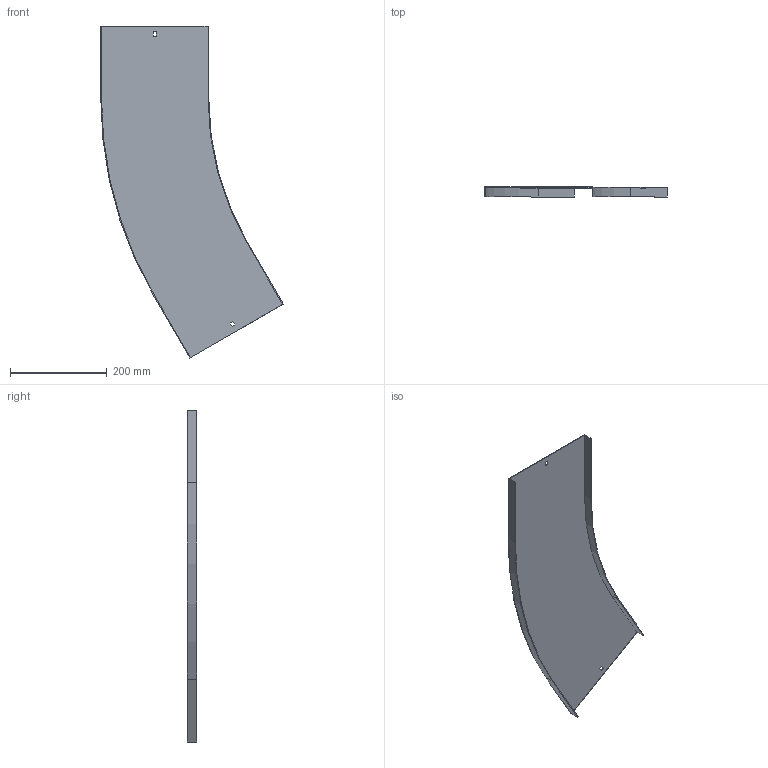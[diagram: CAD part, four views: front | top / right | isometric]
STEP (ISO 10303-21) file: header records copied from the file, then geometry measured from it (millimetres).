
FILE_DESCRIPTION (( 'STEP AP214' ), '1' );
FILE_NAME ('12N6P200.step', '2025-02-21T13:34:20', ( '' ), ( '' ), 'SwSTEP 2.0', 'SolidWorks 2023', '' );
FILE_SCHEMA (( 'AUTOMOTIVE_DESIGN' ));
Length unit declared in the file: millimetre
Products named in the file (1): 12N6P200
Bounding box: 376.84 x 20 x 685.65 mm (x, y, z)
Volume: 259767 mm3; surface area: 349228.5 mm2
Topology: 1 solids, 1 shells, 26 faces, 72 edges, 48 vertices
Faces by surface type: plane 22, cylinder 4
Entity records: 855 total; most frequent: CARTESIAN_POINT 147, ORIENTED_EDGE 144, DIRECTION 134, EDGE_CURVE 72, LINE 64, VECTOR 64, VERTEX_POINT 48, AXIS2_PLACEMENT_3D 35
